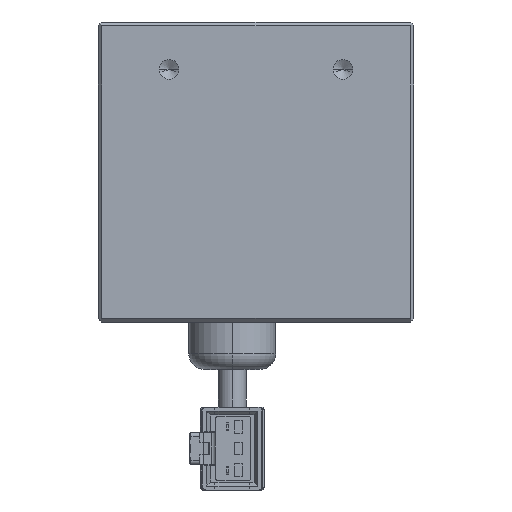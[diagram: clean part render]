
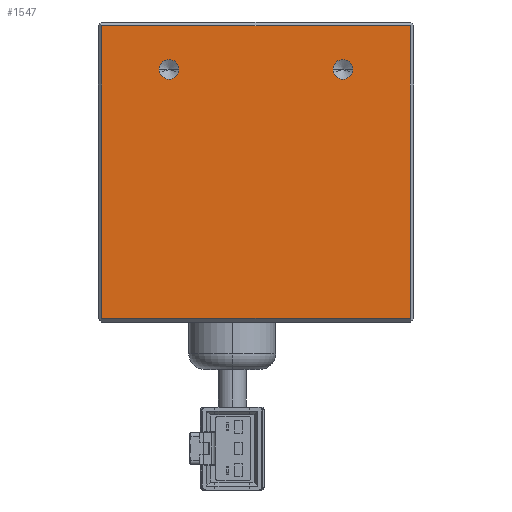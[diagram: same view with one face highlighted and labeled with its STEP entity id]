
A CAD part, left-side view. The second image highlights one B-rep face of the part: STEP entity #1547.
In plain terms, the highlighted planar face has unit normal (-1, 0, 0).
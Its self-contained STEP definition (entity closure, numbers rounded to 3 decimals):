
#273=CARTESIAN_POINT('',(-1.5,31.,12.));
#274=DIRECTION('',(-1.,0.,0.));
#275=DIRECTION('',(0.,1.,0.));
#276=AXIS2_PLACEMENT_3D('',#273,#274,#275);
#278=CARTESIAN_POINT('',(-1.5,31.,12.));
#279=DIRECTION('',(-1.,0.,0.));
#280=DIRECTION('',(0.,-1.,0.));
#281=AXIS2_PLACEMENT_3D('',#278,#279,#280);
#283=CARTESIAN_POINT('',(-1.5,9.,12.));
#284=DIRECTION('',(-1.,0.,0.));
#285=DIRECTION('',(0.,1.,0.));
#286=AXIS2_PLACEMENT_3D('',#283,#284,#285);
#288=CARTESIAN_POINT('',(-1.5,9.,12.));
#289=DIRECTION('',(-1.,0.,0.));
#290=DIRECTION('',(0.,-1.,0.));
#291=AXIS2_PLACEMENT_3D('',#288,#289,#290);
#293=DIRECTION('',(0.,0.,-1.));
#294=VECTOR('',#293,37.);
#295=CARTESIAN_POINT('',(-1.5,39.5,17.5));
#296=LINE('',#295,#294);
#297=DIRECTION('',(0.,-1.,0.));
#298=VECTOR('',#297,39.);
#299=CARTESIAN_POINT('',(-1.5,39.5,17.5));
#300=LINE('',#299,#298);
#301=DIRECTION('',(0.,0.,-1.));
#302=VECTOR('',#301,37.);
#303=CARTESIAN_POINT('',(-1.5,0.5,17.5));
#304=LINE('',#303,#302);
#305=DIRECTION('',(0.,1.,0.));
#306=VECTOR('',#305,39.);
#307=CARTESIAN_POINT('',(-1.5,0.5,-19.5));
#308=LINE('',#307,#306);
#871=CARTESIAN_POINT('',(-1.5,32.25,12.));
#872=CARTESIAN_POINT('',(-1.5,29.75,12.));
#873=VERTEX_POINT('',#871);
#874=VERTEX_POINT('',#872);
#881=CARTESIAN_POINT('',(-1.5,10.25,12.));
#882=CARTESIAN_POINT('',(-1.5,7.75,12.));
#883=VERTEX_POINT('',#881);
#884=VERTEX_POINT('',#882);
#1027=CARTESIAN_POINT('',(-1.5,39.5,17.5));
#1028=CARTESIAN_POINT('',(-1.5,39.5,-19.5));
#1029=VERTEX_POINT('',#1027);
#1030=VERTEX_POINT('',#1028);
#1031=CARTESIAN_POINT('',(-1.5,0.5,17.5));
#1032=VERTEX_POINT('',#1031);
#1035=CARTESIAN_POINT('',(-1.5,0.5,-19.5));
#1036=VERTEX_POINT('',#1035);
#1522=CARTESIAN_POINT('',(-1.5,40.,18.));
#1523=DIRECTION('',(-1.,0.,0.));
#1524=DIRECTION('',(0.,-1.,0.));
#1525=AXIS2_PLACEMENT_3D('',#1522,#1523,#1524);
#1526=PLANE('',#1525);
#1527=ORIENTED_EDGE('',*,*,#1496,.F.);
#1528=ORIENTED_EDGE('',*,*,#1510,.T.);
#1530=ORIENTED_EDGE('',*,*,#1529,.T.);
#1532=ORIENTED_EDGE('',*,*,#1531,.T.);
#1533=EDGE_LOOP('',(#1527,#1528,#1530,#1532));
#1534=FACE_OUTER_BOUND('',#1533,.F.);
#1536=ORIENTED_EDGE('',*,*,#1535,.T.);
#1538=ORIENTED_EDGE('',*,*,#1537,.T.);
#1539=EDGE_LOOP('',(#1536,#1538));
#1540=FACE_BOUND('',#1539,.F.);
#1542=ORIENTED_EDGE('',*,*,#1541,.T.);
#1544=ORIENTED_EDGE('',*,*,#1543,.T.);
#1545=EDGE_LOOP('',(#1542,#1544));
#1546=FACE_BOUND('',#1545,.F.);
#1547=ADVANCED_FACE('',(#1534,#1540,#1546),#1526,.T.);
#277=CIRCLE('',#276,1.25);
#282=CIRCLE('',#281,1.25);
#287=CIRCLE('',#286,1.25);
#292=CIRCLE('',#291,1.25);
#1496=EDGE_CURVE('',#1029,#1030,#296,.T.);
#1510=EDGE_CURVE('',#1029,#1032,#300,.T.);
#1529=EDGE_CURVE('',#1032,#1036,#304,.T.);
#1531=EDGE_CURVE('',#1036,#1030,#308,.T.);
#1535=EDGE_CURVE('',#873,#874,#277,.T.);
#1537=EDGE_CURVE('',#874,#873,#282,.T.);
#1541=EDGE_CURVE('',#883,#884,#287,.T.);
#1543=EDGE_CURVE('',#884,#883,#292,.T.);
